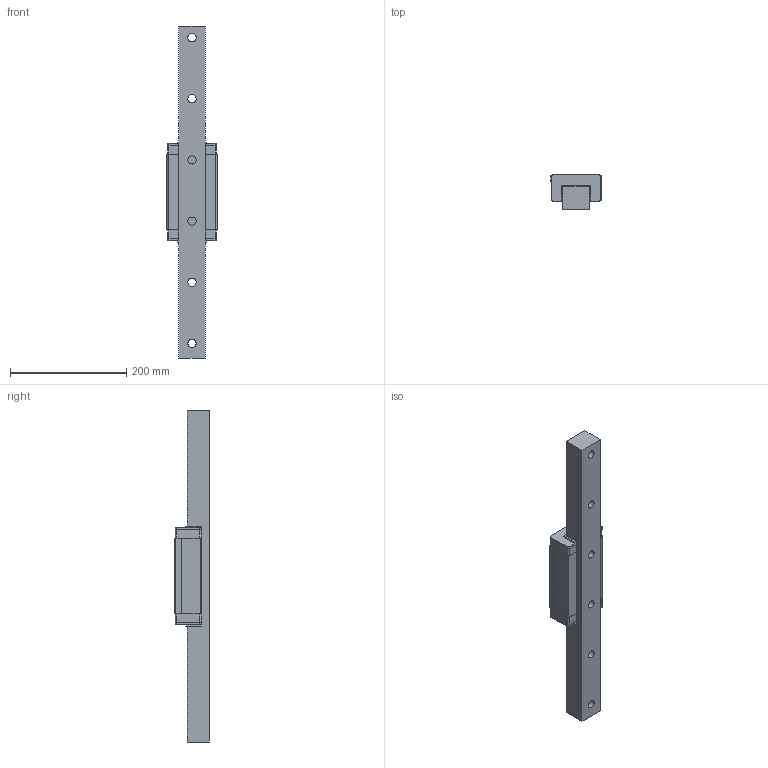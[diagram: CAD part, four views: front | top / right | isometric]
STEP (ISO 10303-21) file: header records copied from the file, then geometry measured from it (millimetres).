
FILE_DESCRIPTION((''),'2;1');
FILE_NAME('E:\PDF郪磁芞\DFS-B\DFS45BL.STP','2018-01-31T12:44:18',(''),(''),'STEP Write','Mastercam V9 ... CNC Software, Inc.','');
FILE_SCHEMA(('CONFIG_CONTROL_DESIGN'));
Length unit declared in the file: millimetre
Bounding box: 86 x 60 x 570 mm (x, y, z)
Volume: 1392076.2 mm3; surface area: 189193.5 mm2
Topology: 6 solids, 6 shells, 116 faces, 544 edges, 696 vertices
Faces by surface type: plane 84, cylinder 32
Full cylindrical faces by diameter (mm): 9.1 x4, 14 x6, 20 x6
Entity records: 5036 total; most frequent: CARTESIAN_POINT 1132, DIRECTION 878, ORIENTED_EDGE 532, VECTOR 378, LINE 378, EDGE_CURVE 266, AXIS2_PLACEMENT_3D 250, TRIMMED_CURVE 246
